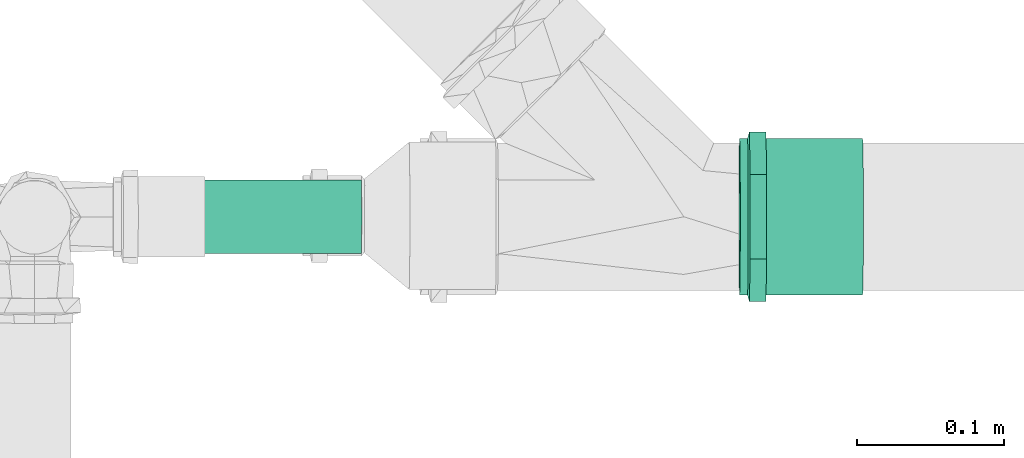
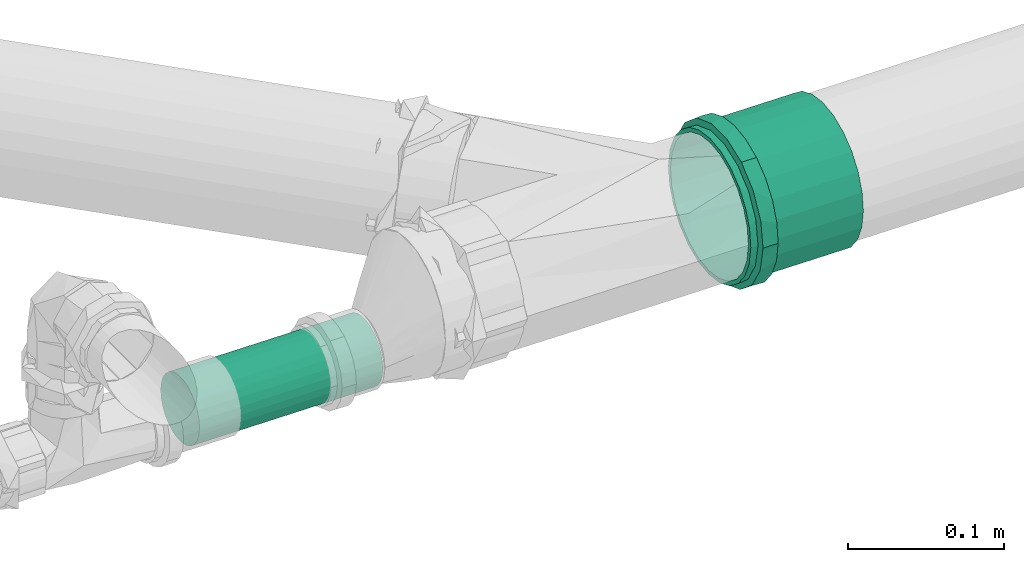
# One storey, part 286 of 589: 1 flow fitting, 1 flow segment.
"""IFC2X3 building model written with IfcOpenShell, lengths in millimetres."""

from ifc_helpers import new_model, entity, si_unit, converted_unit, derived_unit, direction, frame, frame_2d, origin, place, context, subcontext, project, spatial, circle, extrude, faceted_brep, source, transform, mapped, material, type_object, type_shapes, element, save


model = new_model("IFC2X3")

# Units and contexts
model_context = context("Model", 3, precision=0.01, world=origin(), true_north=direction((6.123031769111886e-17, 1.0)))
body_context = subcontext(model_context, "Body", "Model", "MODEL_VIEW")
ifc_project = project(units=[si_unit("LENGTHUNIT", "METRE", prefix="MILLI"), si_unit("AREAUNIT", "SQUARE_METRE"), si_unit("VOLUMEUNIT", "CUBIC_METRE"), converted_unit("PLANEANGLEUNIT", "DEGREE", entity("IfcRatioMeasure", 0.017453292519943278), si_unit("PLANEANGLEUNIT", "RADIAN"), dimensions=[0, 0, 0, 0, 0, 0, 0]), si_unit("MASSUNIT", "GRAM", prefix="KILO"), derived_unit("MASSDENSITYUNIT", [(si_unit("MASSUNIT", "GRAM", prefix="KILO"), 1), (si_unit("LENGTHUNIT", "METRE"), -3)]), derived_unit("IONCONCENTRATIONUNIT", [(si_unit("MASSUNIT", "GRAM", prefix="KILO"), 1), (si_unit("LENGTHUNIT", "METRE"), -3)]), derived_unit("MOMENTOFINERTIAUNIT", [(si_unit("LENGTHUNIT", "METRE"), 4)]), si_unit("TIMEUNIT", "SECOND"), si_unit("FREQUENCYUNIT", "HERTZ"), si_unit("THERMODYNAMICTEMPERATUREUNIT", "DEGREE_CELSIUS"), derived_unit("THERMALTRANSMITTANCEUNIT", [(si_unit("MASSUNIT", "GRAM", prefix="KILO"), 1), (si_unit("THERMODYNAMICTEMPERATUREUNIT", "KELVIN"), -1), (si_unit("TIMEUNIT", "SECOND"), -3)]), derived_unit("THERMALCONDUCTANCEUNIT", [(si_unit("MASSUNIT", "GRAM", prefix="KILO"), 1), (si_unit("THERMODYNAMICTEMPERATUREUNIT", "KELVIN"), -1), (si_unit("TIMEUNIT", "SECOND"), -3), (si_unit("LENGTHUNIT", "METRE"), 1)]), derived_unit("VOLUMETRICFLOWRATEUNIT", [(si_unit("LENGTHUNIT", "METRE"), 3), (si_unit("TIMEUNIT", "SECOND"), -1)]), derived_unit("MASSFLOWRATEUNIT", [(si_unit("MASSUNIT", "GRAM", prefix="KILO"), 1), (si_unit("TIMEUNIT", "SECOND"), -1)]), derived_unit("ROTATIONALFREQUENCYUNIT", [(si_unit("TIMEUNIT", "SECOND"), -1)]), si_unit("ELECTRICCURRENTUNIT", "AMPERE"), si_unit("ELECTRICVOLTAGEUNIT", "VOLT"), si_unit("POWERUNIT", "WATT"), si_unit("FORCEUNIT", "NEWTON", prefix="KILO"), si_unit("ILLUMINANCEUNIT", "LUX"), si_unit("LUMINOUSFLUXUNIT", "LUMEN"), si_unit("LUMINOUSINTENSITYUNIT", "CANDELA"), derived_unit("USERDEFINED", [(si_unit("MASSUNIT", "GRAM", prefix="KILO"), -1), (si_unit("LENGTHUNIT", "METRE"), -2), (si_unit("TIMEUNIT", "SECOND"), 3), (si_unit("LUMINOUSFLUXUNIT", "LUMEN"), 1)]), derived_unit("USERDEFINED", [(si_unit("MASSUNIT", "GRAM", prefix="KILO"), 1), (si_unit("TIMEUNIT", "SECOND"), -3), (si_unit("LENGTHUNIT", "METRE"), 3), (si_unit("ELECTRICCURRENTUNIT", "AMPERE"), -2)]), derived_unit("SOUNDPOWERUNIT", [(si_unit("MASSUNIT", "GRAM", prefix="KILO"), 1), (si_unit("TIMEUNIT", "SECOND"), -3), (si_unit("LENGTHUNIT", "METRE"), 2)]), derived_unit("SOUNDPRESSUREUNIT", [(si_unit("MASSUNIT", "GRAM", prefix="KILO"), 1), (si_unit("LENGTHUNIT", "METRE"), -1), (si_unit("TIMEUNIT", "SECOND"), -2)]), derived_unit("LINEARVELOCITYUNIT", [(si_unit("LENGTHUNIT", "METRE"), 1), (si_unit("TIMEUNIT", "SECOND"), -1)]), si_unit("PRESSUREUNIT", "PASCAL"), derived_unit("USERDEFINED", [(si_unit("MASSUNIT", "GRAM", prefix="KILO"), 1), (si_unit("LENGTHUNIT", "METRE"), -2), (si_unit("TIMEUNIT", "SECOND"), -2)]), derived_unit("LINEARFORCEUNIT", [(si_unit("MASSUNIT", "GRAM", prefix="KILO"), 1), (si_unit("TIMEUNIT", "SECOND"), -2)]), derived_unit("PLANARFORCEUNIT", [(si_unit("MASSUNIT", "GRAM", prefix="KILO"), 1), (si_unit("LENGTHUNIT", "METRE"), -1), (si_unit("TIMEUNIT", "SECOND"), -2)]), derived_unit("SPECIFICHEATCAPACITYUNIT", [(si_unit("THERMODYNAMICTEMPERATUREUNIT", "KELVIN"), -1), (si_unit("LENGTHUNIT", "METRE"), 2), (si_unit("TIMEUNIT", "SECOND"), -2)]), derived_unit("HEATINGVALUEUNIT", [(si_unit("LENGTHUNIT", "METRE"), 2), (si_unit("TIMEUNIT", "SECOND"), -2)]), derived_unit("VAPORPERMEABILITYUNIT", [(si_unit("LENGTHUNIT", "METRE"), -1), (si_unit("TIMEUNIT", "SECOND"), 1)]), derived_unit("DYNAMICVISCOSITYUNIT", [(si_unit("MASSUNIT", "GRAM", prefix="KILO"), 1), (si_unit("TIMEUNIT", "SECOND"), -1), (si_unit("LENGTHUNIT", "METRE"), -1)]), derived_unit("THERMALEXPANSIONCOEFFICIENTUNIT", [(si_unit("THERMODYNAMICTEMPERATUREUNIT", "KELVIN"), -1)]), derived_unit("MODULUSOFELASTICITYUNIT", [(si_unit("MASSUNIT", "GRAM", prefix="KILO"), 1), (si_unit("LENGTHUNIT", "METRE"), -1), (si_unit("TIMEUNIT", "SECOND"), -2)]), derived_unit("ISOTHERMALMOISTURECAPACITYUNIT", [(si_unit("LENGTHUNIT", "METRE"), 3), (si_unit("MASSUNIT", "GRAM", prefix="KILO"), -1)]), derived_unit("MOISTUREDIFFUSIVITYUNIT", [(si_unit("TIMEUNIT", "SECOND"), -1), (si_unit("LENGTHUNIT", "METRE"), 2)])], contexts=[model_context])

# Site, building, storey
site_placement = place(None, origin())
site = spatial("IfcSite", under=ifc_project, at=site_placement, Name="Default", CompositionType="ELEMENT")
building_placement = place(site_placement, origin())
building = spatial("IfcBuilding", under=site, at=building_placement, CompositionType="ELEMENT")
storey_placement = place(building_placement, frame((0.0, 0.0, 100.0)))
storey = spatial("IfcBuildingStorey", under=building, at=storey_placement, Name="TÉRREO", CompositionType="ELEMENT", Elevation=100.0)

# Flow segment
pipe_segment_type = type_object("IfcPipeSegmentType", Name="Tipos de tubos:PVC Esgoto Série Normal", PredefinedType="NOTDEFINED")
flow_segment_placement = place(storey_placement, origin())
element("IfcFlowSegment", 1, at=flow_segment_placement, inside=storey, type_object=pipe_segment_type, Name="Tipos de tubos:PVC Esgoto Série Normal", ObjectType="Tipos de tubos:PVC Esgoto Série Normal", context=body_context, shape_type="SweptSolid", body=[
    extrude(circle(Radius=25.0, at=frame_2d((0.0, -1.691895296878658e-14), x_axis=(1.0, 0.0))), frame((6194.2316121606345, 6698.647194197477, -242.21717998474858), z_axis=(0.9999500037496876, 0.0, -0.009999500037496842), x_axis=(0.0, -1.0, 0.0)), (0.0, 0.0, 1.0), 136.01403222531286),
])

# Flow fitting
ifc_material = material(Name="PVC Série Normal")
pipe_fitting_type = type_object("IfcPipeFittingType", Name="PVC Esgoto_Luva Simples para Conexão_Rodrigo MEP:Standard", PredefinedType="NOTDEFINED", material=ifc_material)
shared_shape = source(origin(), body_context, "Body", "Brep", [
    faceted_brep([(17.770000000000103, 28.72500000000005, -49.753159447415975), (17.770000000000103, 40.62328457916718, -40.62328457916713), (17.770000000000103, 26.524999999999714, -45.94264767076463), (17.770000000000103, 13.730350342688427, -51.242365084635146), (17.770000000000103, 14.86915414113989, -55.49243872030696), (17.770000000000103, 37.5120147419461, -37.51201474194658), (17.770000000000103, 49.75315944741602, -28.724999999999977), (17.770000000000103, 45.94264767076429, -26.52500000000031), (17.770000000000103, 51.24236508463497, -13.730350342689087), (17.770000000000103, 55.49243872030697, -14.869154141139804), (17.770000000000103, 53.05, 0.0), (17.770000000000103, 57.45, 0.0), (17.770000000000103, 51.242365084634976, 13.730350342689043), (17.770000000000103, 55.49243872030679, 14.869154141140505), (17.770000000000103, 45.942647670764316, 26.52500000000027), (17.770000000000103, 49.753159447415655, 28.725000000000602), (17.770000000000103, 37.51201474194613, 37.51201474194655), (17.770000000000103, 40.62328457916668, 40.62328457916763), (17.770000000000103, 26.524999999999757, 45.9426476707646), (17.770000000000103, 28.72499999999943, 49.75315944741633), (17.770000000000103, 13.730350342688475, 51.24236508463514), (17.770000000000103, 14.8691541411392, 55.49243872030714), (17.770000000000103, 0.0, 53.05), (17.770000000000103, 0.0, 57.45), (17.770000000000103, -13.730350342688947, 51.24236508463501), (17.770000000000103, -14.869154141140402, 55.49243872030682), (17.770000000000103, -26.52500000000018, 45.94264767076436), (17.770000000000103, -28.725000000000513, 49.753159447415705), (17.770000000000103, -37.51201474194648, 37.5120147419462), (17.770000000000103, -40.62328457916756, 40.62328457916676), (17.770000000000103, -45.94264767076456, 26.524999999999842), (17.770000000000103, -49.7531594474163, 28.724999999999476), (17.770000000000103, -55.49243872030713, 14.869154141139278), (17.770000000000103, -51.24236508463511, 13.730350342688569), (17.770000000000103, -57.45, 0.0), (17.770000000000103, -53.05, 0.0), (17.770000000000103, -55.49243872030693, -14.86915414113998), (17.770000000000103, -51.24236508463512, -13.73035034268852), (17.770000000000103, -49.75315944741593, -28.72500000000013), (17.770000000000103, -45.942647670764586, -26.5249999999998), (17.770000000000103, -40.62328457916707, -40.62328457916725), (17.770000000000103, -37.512014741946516, -37.51201474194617), (17.770000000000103, -28.724999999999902, -49.75315944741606), (17.770000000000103, -26.525000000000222, -45.94264767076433), (17.770000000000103, -14.869154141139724, -55.492438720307), (17.770000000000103, -13.730350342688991, -51.242365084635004), (17.770000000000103, 0.0, -57.45), (17.770000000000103, 0.0, -53.05), (6.570000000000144, -19.34638876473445, 53.16657713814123), (6.57000000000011, -44.00761900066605, 36.93009572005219), (6.5700000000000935, -48.99626263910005, 28.290173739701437), (6.5700000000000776, -53.98490627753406, 19.65025175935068), (6.570000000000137, -28.721697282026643, 49.75506612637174), (6.570000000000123, -36.36465814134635, 43.34258092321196), (6.57000000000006, -55.71745313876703, 9.825125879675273), (6.570000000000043, -57.45, 0.0), (6.570000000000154, -9.971080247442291, 56.57808814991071), (6.570000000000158, 9.98234714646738, 56.576101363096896), (6.570000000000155, 0.005633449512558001, 56.577094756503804), (6.570000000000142, 36.37328876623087, 43.33533831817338), (6.570000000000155, 19.356976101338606, 53.16272339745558), (6.570000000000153, 28.73160505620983, 49.749345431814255), (6.5700000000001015, 53.988818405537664, 19.639500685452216), (6.570000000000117, 49.00189544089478, 28.280415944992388), (6.570000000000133, 44.01497247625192, 36.921331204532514), (6.570000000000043, 57.45, 0.0), (6.569999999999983, 44.01497247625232, -36.92133120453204), (6.569999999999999, 49.0018954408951, -28.280415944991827), (6.570000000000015, 53.98881840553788, -19.63950068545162), (6.569999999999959, 28.731605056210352, -49.74934543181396), (6.569999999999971, 36.37328876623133, -43.335338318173), (6.569999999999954, 19.35697610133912, -53.16272339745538), (6.569999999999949, 9.982347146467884, -56.57610136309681), (6.569999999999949, -9.97108024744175, -56.578088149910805), (6.569999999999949, 0.005633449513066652, -56.577094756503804), (6.569999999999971, -36.364658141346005, -43.34258092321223), (6.56999999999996, -28.72169728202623, -49.755066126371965), (6.569999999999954, -19.346388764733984, -53.16657713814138), (6.57000000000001, -53.984906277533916, -19.650251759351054), (6.569999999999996, -48.99626263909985, -28.290173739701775), (6.569999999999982, -44.007619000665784, -36.93009572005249), (6.570000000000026, -55.717453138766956, -9.825125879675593), (83.52000000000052, 26.525000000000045, -45.942647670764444), (83.52000000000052, 37.512014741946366, -37.51201474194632), (83.52000000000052, 25.0, -43.301270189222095), (83.52000000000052, 12.940952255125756, -48.2962913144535), (83.52000000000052, 13.73035034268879, -51.242365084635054), (83.52000000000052, 35.35533905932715, -35.355339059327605), (83.52000000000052, 45.94264767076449, -26.524999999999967), (83.52000000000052, 43.30127018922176, -25.0), (83.52000000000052, 48.29629131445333, -12.940952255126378), (83.52000000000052, 51.24236508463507, -13.730350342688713), (83.52000000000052, 50.0, 0.0), (83.52000000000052, 53.05, 0.0), (83.52000000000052, 48.296291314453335, 12.940952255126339), (83.52000000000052, 51.2423650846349, 13.73035034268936), (83.52000000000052, 43.30127018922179, 25.0), (83.52000000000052, 45.942647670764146, 26.525000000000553), (83.52000000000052, 35.35533905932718, 35.35533905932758), (83.52000000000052, 37.512014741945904, 37.512014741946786), (83.52000000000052, 25.0, 43.301270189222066), (83.52000000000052, 26.52499999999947, 45.94264767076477), (83.52000000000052, 12.9409522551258, 48.29629131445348), (83.52000000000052, 13.730350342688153, 51.242365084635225), (83.52000000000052, 0.0, 50.0), (83.52000000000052, 0.0, 53.05), (83.52000000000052, -12.94095225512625, 48.296291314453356), (83.52000000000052, -13.730350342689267, 51.24236508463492), (83.52000000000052, -25.0, 43.30127018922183), (83.52000000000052, -26.525000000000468, 45.942647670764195), (83.52000000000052, -35.355339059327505, 35.35533905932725), (83.52000000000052, -37.512014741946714, 37.51201474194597), (83.52000000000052, -43.30127018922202, 25.0), (83.52000000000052, -45.942647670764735, 26.524999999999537), (83.52000000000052, -51.24236508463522, 13.730350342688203), (83.52000000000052, -48.29629131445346, 12.94095225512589), (83.52000000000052, -53.05, 0.0), (83.52000000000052, -50.0, 0.0), (83.52000000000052, -51.242365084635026, -13.730350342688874), (83.52000000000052, -48.29629131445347, -12.940952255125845), (83.52000000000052, -45.9426476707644, -26.525000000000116), (83.52000000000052, -43.301270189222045, -25.0), (83.52000000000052, -37.51201474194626, -37.51201474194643), (83.52000000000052, -35.35533905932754, -35.355339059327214), (83.52000000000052, -26.524999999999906, -45.94264767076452), (83.52000000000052, -25.0, -43.30127018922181), (83.52000000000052, -13.730350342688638, -51.2423650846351), (83.52000000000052, -12.94095225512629, -48.29629131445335), (83.52000000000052, 0.0, -53.05), (83.52000000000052, 0.0, -50.0), (0.0, 25.0, -43.301270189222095), (0.0, 37.512014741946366, -37.51201474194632), (0.0, 26.525000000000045, -45.942647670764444), (0.0, 12.940952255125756, -48.2962913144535), (0.0, 35.35533905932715, -35.355339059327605), (0.0, 45.94264767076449, -26.524999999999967), (0.0, 43.30127018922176, -25.0), (0.0, 48.29629131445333, -12.940952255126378), (0.0, 51.24236508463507, -13.730350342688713), (0.0, 50.0, 0.0), (0.0, 53.05, 0.0), (0.0, 48.296291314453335, 12.940952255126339), (0.0, 51.2423650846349, 13.73035034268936), (0.0, 43.30127018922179, 25.0), (0.0, 45.942647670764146, 26.525000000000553), (0.0, 35.35533905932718, 35.35533905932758), (0.0, 37.512014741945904, 37.512014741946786), (0.0, 25.0, 43.301270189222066), (0.0, 26.52499999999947, 45.94264767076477), (0.0, 12.9409522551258, 48.29629131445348), (0.0, 13.730350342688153, 51.242365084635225), (0.0, 0.0, 50.0), (0.0, 0.0, 53.05), (0.0, -12.94095225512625, 48.296291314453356), (0.0, -13.730350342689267, 51.24236508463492), (0.0, -25.0, 43.30127018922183), (0.0, -26.525000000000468, 45.942647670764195), (0.0, -35.355339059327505, 35.35533905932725), (0.0, -37.512014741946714, 37.51201474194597), (0.0, -43.30127018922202, 25.0), (0.0, -45.942647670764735, 26.524999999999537), (0.0, -51.24236508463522, 13.730350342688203), (0.0, -48.29629131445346, 12.94095225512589), (0.0, -53.05, 0.0), (0.0, -50.0, 0.0), (0.0, -51.242365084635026, -13.730350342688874), (0.0, -48.29629131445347, -12.940952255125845), (0.0, -45.9426476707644, -26.525000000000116), (0.0, -43.301270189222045, -25.0), (0.0, -37.51201474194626, -37.51201474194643), (0.0, -35.35533905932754, -35.355339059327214), (0.0, -26.524999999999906, -45.94264767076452), (0.0, -25.0, -43.30127018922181), (0.0, -13.730350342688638, -51.2423650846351), (0.0, -12.94095225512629, -48.29629131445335), (0.0, 0.0, -53.05), (0.0, 0.0, -50.0), (0.0, 13.73035034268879, -51.242365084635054), (5.370000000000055, -53.05, 0.0), (5.370000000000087, -49.85079898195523, 18.143878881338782), (5.370000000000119, -40.63905406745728, 34.09941032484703), (5.370000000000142, -26.525801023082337, 45.942185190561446), (5.3700000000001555, -9.213250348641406, 52.24383712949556), (5.370000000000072, 51.44992493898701, 9.073243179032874), (5.370000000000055, 53.05, 0.0), (5.370000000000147, 26.523397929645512, 45.943572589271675), (5.370000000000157, 9.210517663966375, 52.244318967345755), (5.3700000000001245, 40.63727040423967, 34.10153594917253), (5.370000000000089, 49.84984987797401, 18.146486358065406), (5.370000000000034, 51.4499249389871, -9.073243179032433), (5.370000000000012, 49.84984987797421, -18.146486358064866), (5.369999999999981, 40.63727040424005, -34.101535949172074), (5.36999999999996, 26.523397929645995, -45.9435725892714), (5.369999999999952, 9.21051766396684, -52.24431896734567), (5.369999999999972, -26.52580102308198, -45.94218519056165), (5.369999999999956, -9.213250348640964, -52.24383712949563), (5.369999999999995, -40.63905406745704, -34.099410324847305), (5.370000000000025, -49.8507989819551, -18.143878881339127), (50.0, -50.0, 0.0), (50.0, 50.0, 0.0)], [[[0, 1, 2]], [[0, 2, 3]], [[3, 4, 0]], [[2, 1, 5]], [[6, 5, 1]], [[5, 6, 7]], [[7, 6, 8]], [[9, 8, 6]], [[9, 10, 8]], [[10, 9, 11]], [[12, 10, 11]], [[11, 13, 12]], [[12, 13, 14]], [[15, 14, 13]], [[14, 15, 16]], [[16, 15, 17]], [[18, 16, 17]], [[17, 19, 18]], [[18, 19, 20]], [[21, 20, 19]], [[20, 21, 22]], [[22, 21, 23]], [[22, 23, 24]], [[24, 23, 25]], [[24, 25, 26]], [[27, 26, 25]], [[27, 28, 26]], [[28, 27, 29]], [[29, 30, 28]], [[31, 30, 29]], [[30, 31, 32]], [[32, 33, 30]], [[34, 33, 32]], [[34, 35, 33]], [[36, 35, 34]], [[36, 37, 35]], [[37, 36, 38]], [[38, 39, 37]], [[39, 38, 40]], [[39, 40, 41]], [[40, 42, 41]], [[41, 42, 43]], [[43, 42, 44]], [[44, 45, 43]], [[46, 45, 44]], [[4, 47, 46]], [[46, 47, 45]], [[4, 3, 47]], [[48, 27, 25]], [[31, 29, 49]], [[31, 49, 50, 51]], [[52, 53, 27]], [[32, 51, 54]], [[54, 55, 34]], [[54, 34, 32]], [[25, 56, 48]], [[49, 29, 53]], [[23, 57, 58, 56]], [[59, 19, 17]], [[27, 53, 29]], [[48, 52, 27]], [[31, 51, 32]], [[57, 23, 21]], [[60, 19, 61]], [[15, 62, 63, 64]], [[19, 60, 21]], [[15, 13, 62]], [[17, 64, 59]], [[57, 21, 60]], [[23, 56, 25]], [[15, 64, 17]], [[13, 65, 62]], [[13, 11, 65]], [[59, 61, 19]], [[65, 11, 9]], [[6, 1, 66]], [[6, 66, 67, 68]], [[69, 70, 0]], [[68, 65, 9]], [[71, 69, 0]], [[71, 0, 4]], [[4, 72, 71]], [[66, 1, 70]], [[46, 73, 74, 72]], [[75, 76, 42]], [[0, 70, 1]], [[75, 42, 40]], [[6, 68, 9]], [[73, 46, 44]], [[77, 42, 76]], [[38, 78, 79, 80]], [[42, 77, 44]], [[38, 36, 78]], [[40, 80, 75]], [[73, 44, 77]], [[46, 72, 4]], [[38, 80, 40]], [[81, 78, 36]], [[55, 81, 34]], [[34, 81, 36]], [[82, 83, 84]], [[82, 84, 85]], [[85, 86, 82]], [[84, 83, 87]], [[88, 87, 83]], [[87, 88, 89]], [[89, 88, 90]], [[91, 90, 88]], [[91, 92, 90]], [[92, 91, 93]], [[94, 92, 93]], [[93, 95, 94]], [[94, 95, 96]], [[97, 96, 95]], [[96, 97, 98]], [[98, 97, 99]], [[100, 98, 99]], [[99, 101, 100]], [[100, 101, 102]], [[103, 102, 101]], [[102, 103, 104]], [[104, 103, 105]], [[104, 105, 106]], [[106, 105, 107]], [[106, 107, 108]], [[109, 108, 107]], [[110, 108, 109]], [[110, 109, 111]], [[111, 112, 110]], [[113, 112, 111]], [[112, 113, 114]], [[114, 115, 112]], [[116, 115, 114]], [[116, 117, 115]], [[118, 117, 116]], [[118, 119, 117]], [[119, 118, 120]], [[120, 121, 119]], [[121, 120, 122]], [[121, 122, 123]], [[122, 124, 123]], [[125, 123, 124]], [[125, 124, 126]], [[126, 127, 125]], [[128, 127, 126]], [[86, 129, 128]], [[128, 129, 127]], [[86, 85, 129]], [[130, 131, 132]], [[133, 130, 132]], [[134, 131, 130]], [[131, 134, 135]], [[136, 135, 134]], [[137, 135, 136]], [[135, 137, 138]], [[137, 139, 138]], [[140, 138, 139]], [[140, 139, 141]], [[141, 142, 140]], [[143, 142, 141]], [[142, 143, 144]], [[145, 144, 143]], [[146, 144, 145]], [[146, 145, 147]], [[147, 148, 146]], [[149, 148, 147]], [[148, 149, 150]], [[151, 150, 149]], [[152, 150, 151]], [[153, 152, 151]], [[154, 152, 153]], [[155, 154, 153]], [[154, 155, 156]], [[156, 155, 157]], [[158, 156, 157]], [[157, 159, 158]], [[158, 159, 160]], [[161, 160, 159]], [[159, 162, 161]], [[161, 162, 163]], [[162, 164, 163]], [[163, 164, 165]], [[164, 166, 165]], [[167, 165, 166]], [[166, 168, 167]], [[169, 167, 168]], [[170, 169, 168]], [[170, 171, 169]], [[171, 170, 172]], [[173, 171, 172]], [[172, 174, 173]], [[173, 174, 175]], [[174, 176, 175]], [[176, 133, 177]], [[175, 176, 177]], [[132, 177, 133]], [[161, 178, 179]], [[158, 180, 181]], [[179, 180, 160]], [[181, 182, 154]], [[179, 160, 161]], [[161, 163, 178]], [[35, 116, 114, 33]], [[183, 184, 140]], [[181, 156, 158]], [[158, 160, 180]], [[181, 154, 156]], [[182, 152, 154]], [[183, 140, 142]], [[185, 150, 186]], [[187, 146, 185]], [[142, 188, 183]], [[187, 188, 144]], [[185, 148, 150]], [[150, 152, 186]], [[187, 144, 146]], [[146, 148, 185]], [[188, 142, 144]], [[186, 152, 182]], [[189, 190, 138]], [[131, 191, 192]], [[190, 191, 135]], [[192, 193, 177]], [[190, 135, 138]], [[184, 189, 140]], [[192, 132, 131]], [[131, 135, 191]], [[192, 177, 132]], [[193, 175, 177]], [[140, 189, 138]], [[194, 173, 195]], [[196, 169, 194]], [[165, 197, 178]], [[196, 197, 167]], [[165, 178, 163]], [[35, 37, 118, 116]], [[194, 171, 173]], [[173, 175, 195]], [[196, 167, 169]], [[169, 171, 194]], [[197, 165, 167]], [[195, 175, 193]], [[115, 117, 198, 164, 162]], [[155, 108, 110, 157]], [[110, 112, 159, 157]], [[112, 115, 162, 159]], [[106, 108, 155, 153]], [[153, 151, 104, 106]], [[102, 104, 151, 149]], [[102, 149, 147, 100]], [[141, 94, 96, 143]], [[96, 98, 145, 143]], [[98, 100, 147, 145]], [[92, 94, 141, 139, 199]], [[199, 139, 137, 90, 92]], [[87, 89, 136, 134]], [[134, 130, 84, 87]], [[89, 90, 137, 136]], [[85, 84, 130, 133]], [[133, 176, 129, 85]], [[127, 129, 176, 174]], [[127, 174, 172, 125]], [[166, 119, 121, 168]], [[121, 123, 170, 168]], [[123, 125, 172, 170]], [[117, 119, 166, 164, 198]], [[81, 178, 197]], [[190, 68, 67]], [[194, 75, 196]], [[193, 72, 74]], [[195, 77, 194]], [[79, 197, 196]], [[81, 55, 178]], [[192, 69, 71]], [[79, 78, 197]], [[194, 77, 76]], [[191, 66, 70]], [[80, 196, 75]], [[68, 190, 189]], [[74, 195, 193]], [[192, 71, 193]], [[190, 67, 191]], [[70, 192, 191]], [[65, 189, 184]], [[195, 73, 77]], [[193, 71, 72]], [[197, 78, 81]], [[191, 67, 66]], [[189, 65, 68]], [[196, 80, 79]], [[70, 69, 192]], [[194, 76, 75]], [[73, 195, 74]], [[65, 183, 62]], [[48, 56, 182]], [[58, 182, 56]], [[54, 51, 179]], [[59, 185, 61]], [[60, 186, 57]], [[53, 52, 181]], [[63, 187, 64]], [[58, 57, 186]], [[187, 63, 188]], [[186, 60, 185]], [[50, 49, 180]], [[185, 59, 187]], [[59, 64, 187]], [[182, 58, 186]], [[50, 179, 51]], [[54, 178, 55]], [[53, 180, 49]], [[63, 62, 188]], [[181, 48, 182]], [[183, 65, 184]], [[179, 50, 180]], [[178, 54, 179]], [[183, 188, 62]], [[180, 53, 181]], [[60, 61, 185]], [[48, 181, 52]], [[30, 33, 114, 113]], [[26, 28, 111, 109]], [[113, 111, 28, 30]], [[107, 24, 26, 109]], [[107, 105, 22, 24]], [[18, 20, 103, 101]], [[99, 16, 18, 101]], [[12, 14, 97, 95]], [[99, 97, 14, 16]], [[10, 12, 95, 93]], [[103, 20, 22, 105]], [[91, 8, 10, 93]], [[88, 7, 8, 91]], [[82, 86, 3, 2]], [[83, 5, 7, 88]], [[2, 5, 83, 82]], [[86, 128, 47, 3]], [[43, 45, 126, 124]], [[122, 41, 43, 124]], [[37, 39, 120, 118]], [[122, 120, 39, 41]], [[126, 45, 47, 128]]]),
])
type_shapes(pipe_fitting_type, [shared_shape])
flow_fitting_placement = place(storey_placement, frame((6586.816015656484, 6698.647206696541, -221.14177405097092), z_axis=(0.009999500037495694, 4.999625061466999e-07, 0.9999500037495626), x_axis=(0.9999500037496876, 0.0, -0.009999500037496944)))
element("IfcFlowFitting", 2, at=flow_fitting_placement, inside=storey, type_object=pipe_fitting_type, material=ifc_material, Name="PVC Esgoto_Luva Simples para Conexão_Rodrigo MEP:Standard", ObjectType="PVC Esgoto_Luva Simples para Conexão_Rodrigo MEP:Standard", context=body_context, shape_type="MappedRepresentation", body=[
    mapped(shared_shape, transform((0.0, 0.0, 0.0), scale=1.0)),
])

save(model, "model.ifc")
